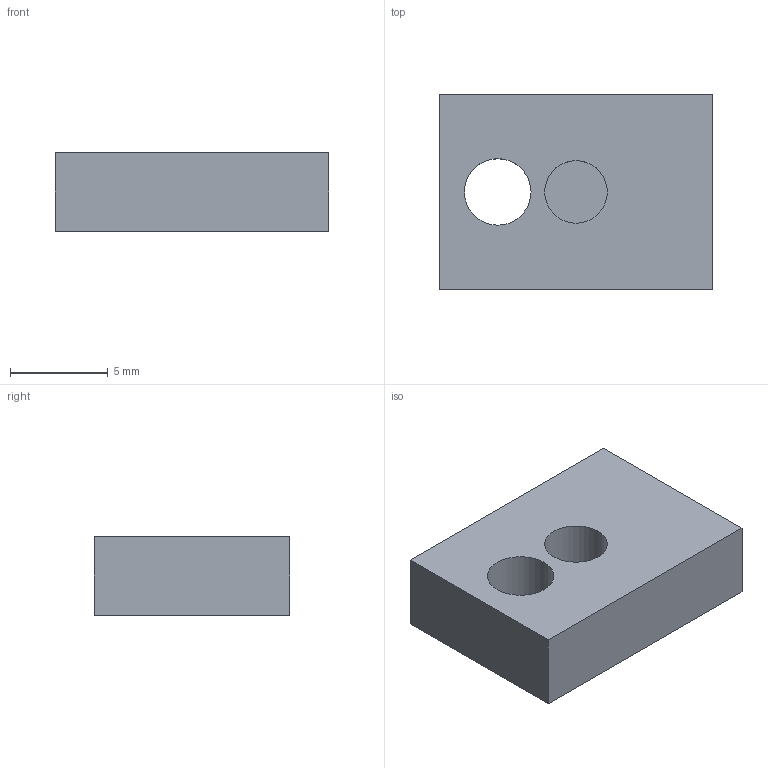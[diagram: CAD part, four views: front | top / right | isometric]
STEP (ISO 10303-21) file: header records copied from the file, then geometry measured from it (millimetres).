
FILE_DESCRIPTION(('Open CASCADE Model'),'2;1');
FILE_NAME('Open CASCADE Shape Model','2026-09-10T23:36:53',('Author'),( 'Open CASCADE'),'Open CASCADE STEP processor 7.9','Open CASCADE 7.9' ,'Unknown');
FILE_SCHEMA(('AUTOMOTIVE_DESIGN { 1 0 10303 214 1 1 1 1 }'));
Length unit declared in the file: millimetre
Products named in the file (1): Open CASCADE STEP translator 7.9 8
Bounding box: 14 x 10 x 4 mm (x, y, z)
Volume: 504.4 mm3; surface area: 520.7 mm2
Topology: 1 solids, 1 shells, 9 faces, 18 edges, 12 vertices
Faces by surface type: plane 7, cylinder 2
Full cylindrical faces by diameter (mm): 3.2 x1, 3.4 x1
Entity records: 493 total; most frequent: CARTESIAN_POINT 94, DIRECTION 75, LINE 46, VECTOR 46, ORIENTED_EDGE 36, PCURVE 36, DEFINITIONAL_REPRESENTATION 36, EDGE_CURVE 18
